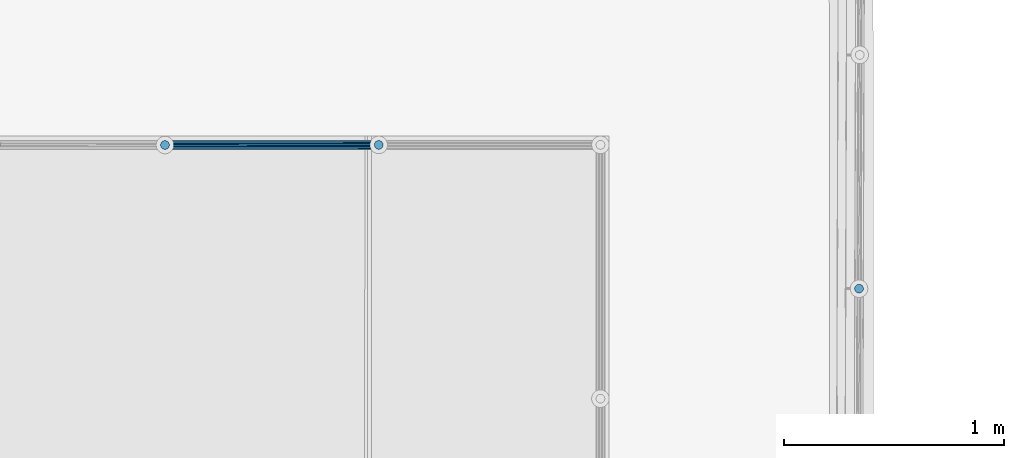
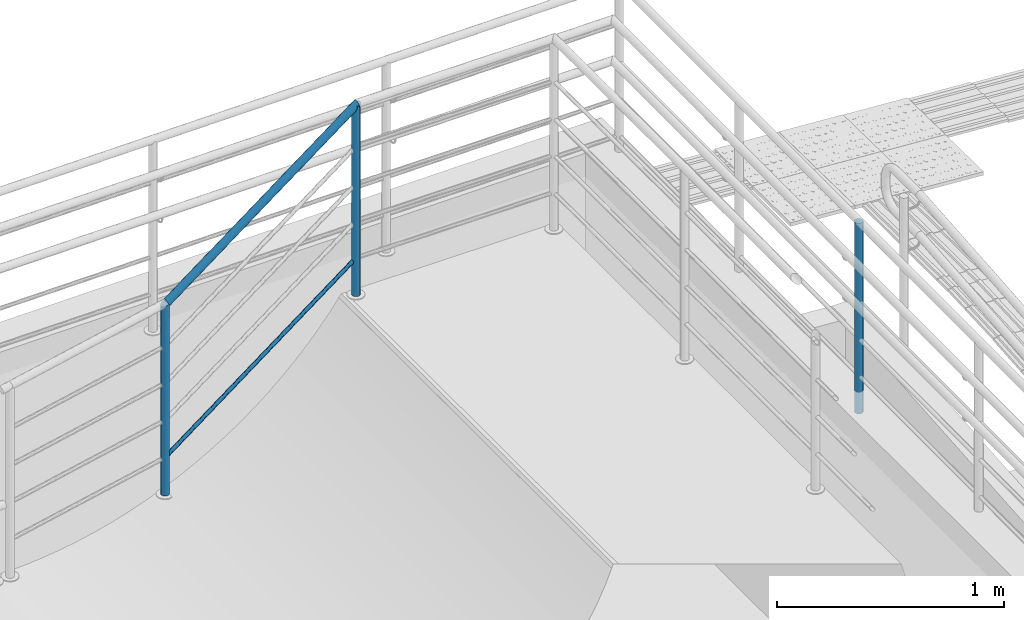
# One storey, part 52 of 237: 5 building element parts, 2 elements without a shape of their own.
"""IFC2X3 building model written with IfcOpenShell, lengths in millimetres."""

import ifcopenshell
import ifcopenshell.guid

model = None  # the IFC model being written
_history = None  # IfcOwnerHistory: only IFC2X3 demands one
_inside = {}  # id of a spatial element -> (the spatial element, [elements in it])
_under = {}  # id of a project, library or spatial element -> (it, [spatial elements below it])
_declared = {}  # id of a project -> (the project, [libraries it declares])
_typed = {}  # id of a type object -> (the type object, [elements of that type])
_made_of = {}  # id of a material, layer set ... -> (it, [elements and type objects made of it])


def new_model(schema):
    """Start an empty IFC model of exactly this schema.

    Asked for "IFC4X3", IfcOpenShell would pick the latest addendum, in which some entities
    have other attributes; the version numbers below select the first issue.
    IFC2X3 requires an IfcOwnerHistory on every rooted entity: one is made here for all.
    """
    global model, _history
    if schema == "IFC4X3":
        model = ifcopenshell.file(schema_version=(4, 3, 0, 0))
    else:
        model = ifcopenshell.file(schema=schema)
    _inside.clear()
    _under.clear()
    _declared.clear()
    _typed.clear()
    _made_of.clear()
    _history = None
    if model.schema == "IFC2X3":
        org = make("IfcOrganization", Name="unknown")
        user = make(
            "IfcPersonAndOrganization",
            ThePerson=make("IfcPerson", FamilyName="unknown"),
            TheOrganization=org,
        )
        app = make(
            "IfcApplication",
            ApplicationDeveloper=org,
            Version="unknown",
            ApplicationFullName="unknown",
            ApplicationIdentifier="unknown",
        )
        _history = make(
            "IfcOwnerHistory",
            OwningUser=user,
            OwningApplication=app,
            ChangeAction="ADDED",
            CreationDate=0,
        )
    return model


def make(cls, **values):
    """One entity of the class cls with the attributes given. An attribute that is None is left unset."""
    return model.create_entity(
        cls, **{name: value for name, value in values.items() if value is not None}
    )


def entity(cls, *values):
    """Any entity or typed value of the class cls, its attributes in the order of the schema. None: left unset."""
    e = model.create_entity(cls)
    for i, value in enumerate(values):
        if value is not None:
            e[i] = value
    return e


def rooted(cls, **values):
    """An entity with a GlobalId (a new one), such as an element, a storey or a relation."""
    return make(cls, GlobalId=ifcopenshell.guid.new(), OwnerHistory=_history, **values)


def si_unit(unit_type, name, prefix=None):
    """IfcSIUnit, for example si_unit("LENGTHUNIT", "METRE", prefix="MILLI")."""
    return make("IfcSIUnit", UnitType=unit_type, Prefix=prefix, Name=name)


def converted_unit(unit_type, name, factor, base, dimensions=None, offset=None):
    """IfcConversionBasedUnit, such as the inch: factor (a typed value) times the base unit."""
    return make(
        "IfcConversionBasedUnit"
        if offset is None
        else "IfcConversionBasedUnitWithOffset",
        ConversionOffset=offset,
        Dimensions=None
        if dimensions is None
        else entity("IfcDimensionalExponents", *dimensions),
        UnitType=unit_type,
        Name=name,
        ConversionFactor=make(
            "IfcMeasureWithUnit", ValueComponent=factor, UnitComponent=base
        ),
    )


def derived_unit(unit_type, elements):
    """IfcDerivedUnit: a product of units, each with its exponent."""
    return make(
        "IfcDerivedUnit",
        Elements=[
            make("IfcDerivedUnitElement", Unit=unit, Exponent=power)
            for unit, power in elements
        ],
        UnitType=unit_type,
    )


def money_unit(currency):
    """IfcMonetaryUnit."""
    return make("IfcMonetaryUnit", Currency=currency)


def assignment(units):
    """IfcUnitAssignment: the units of a project."""
    return None if units is None else make("IfcUnitAssignment", Units=units)


def point(xyz):
    """IfcCartesianPoint."""
    return None if xyz is None else make("IfcCartesianPoint", Coordinates=xyz)


def direction(xyz):
    """IfcDirection."""
    return None if xyz is None else make("IfcDirection", DirectionRatios=xyz)


def frame(location, z_axis=None, x_axis=None):
    """IfcAxis2Placement3D, a coordinate frame: its origin and axes. An axis left out is left unset."""
    return make(
        "IfcAxis2Placement3D",
        Location=point(location),
        Axis=direction(z_axis),
        RefDirection=direction(x_axis),
    )


def origin_with_axes():
    """The frame at (0, 0, 0) with the z axis (0, 0, 1) and the x axis (1, 0, 0) written out."""
    return frame((0.0, 0.0, 0.0), z_axis=(0.0, 0.0, 1.0), x_axis=(1.0, 0.0, 0.0))


def place(relative_to, where):
    """IfcLocalPlacement: puts the frame where relative to a parent placement (None: the world)."""
    return make(
        "IfcLocalPlacement", PlacementRelTo=relative_to, RelativePlacement=where
    )


def context(
    kind, dimensions, precision=None, world=None, true_north=None, identifier=None
):
    """IfcGeometricRepresentationContext, for example the 3D "Model" context."""
    return make(
        "IfcGeometricRepresentationContext",
        ContextIdentifier=identifier,
        ContextType=kind,
        CoordinateSpaceDimension=dimensions,
        Precision=precision,
        WorldCoordinateSystem=world,
        TrueNorth=true_north,
    )


def subcontext(parent, identifier, kind, view, scale=None):
    """IfcGeometricRepresentationSubContext, for example "Body" below "Model"."""
    return make(
        "IfcGeometricRepresentationSubContext",
        ContextIdentifier=identifier,
        ContextType=kind,
        ParentContext=parent,
        TargetScale=scale,
        TargetView=view,
    )


def project(units=None, contexts=None):
    """IfcProject with its units and contexts."""
    return rooted(
        "IfcProject",
        Name="project",
        RepresentationContexts=contexts,
        UnitsInContext=assignment(units),
    )


def spatial(cls, under=None, at=None, **own):
    """A site, building, storey or space (cls), placed at a placement, below another one or the project."""
    s = rooted(cls, ObjectPlacement=at, **own)
    if under is not None:
        _under.setdefault(under.id(), (under, []))[1].append(s)
    return s


def faces_of(points, faces, orient=None, outer=None):
    """IfcFace entities. A face is a list of loops; a loop is a list of indices into points, from 0.

    orient and outer hold one flag for each loop. By default every Orientation is true, the
    first loop of a face is its IfcFaceOuterBound and the others are IfcFaceBound.
    """
    made = []
    for i, loops in enumerate(faces):
        bounds = []
        for j, loop in enumerate(loops):
            is_outer = j == 0 if outer is None else outer[i][j]
            bounds.append(
                make(
                    "IfcFaceOuterBound" if is_outer else "IfcFaceBound",
                    Bound=make("IfcPolyLoop", Polygon=[points[k] for k in loop]),
                    Orientation=True if orient is None else orient[i][j],
                )
            )
        made.append(make("IfcFace", Bounds=bounds))
    return made


def faceted_brep(points, faces, orient=None, outer=None, voids=None):
    """IfcFacetedBrep: a solid bounded by flat faces; with voids (closed shells), ...WithVoids."""
    shared = [point(p) for p in points]
    hull = make("IfcClosedShell", CfsFaces=faces_of(shared, faces, orient, outer))
    if voids is None:
        return make("IfcFacetedBrep", Outer=hull)
    return make(
        "IfcFacetedBrepWithVoids",
        Outer=hull,
        Voids=[
            make(cls, CfsFaces=faces_of(shared, fs, o, b)) for cls, fs, o, b in voids
        ],
    )


def shape(context_of_items, identifier, shape_type, items):
    """IfcShapeRepresentation: the items that make up one representation, for example the "Body"."""
    return make(
        "IfcShapeRepresentation",
        ContextOfItems=context_of_items,
        RepresentationIdentifier=identifier,
        RepresentationType=shape_type,
        Items=items,
    )


def material(Name=None, Category=None):
    """IfcMaterial."""
    return make("IfcMaterial", Name=Name, Category=Category)


def made_of(thing, what):
    """Note that an element or type object is made of a material, layer set ...; save() writes the relation."""
    if what is not None:
        _made_of.setdefault(what.id(), (what, []))[1].append(thing)
    return thing


def type_object(cls, material=None, **own):
    """A type object (cls), such as IfcWallType, which elements share."""
    return made_of(rooted(cls, **own), material)


def element(
    cls,
    number,
    at=None,
    inside=None,
    cuts=None,
    type_object=None,
    material=None,
    context=None,
    identifier="Body",
    shape_type=None,
    held_by="IfcProductDefinitionShape",
    body=None,
    shapes=None,
    **own,
):
    """One element of the class cls, such as IfcWall. Its Tag is "e" and its number.

    at: its placement. inside: the storey or other place that contains it. cuts: it is an
    opening in that element (IfcRelVoidsElement). A single representation is given by context,
    identifier, shape_type and body (its items); several are given by shapes. held_by: the class
    of the entity that holds the representations. save() writes the other relations.
    """
    e = rooted(cls, Tag="e%d" % number, ObjectPlacement=at, **own)
    if body is not None:
        shapes = [shape(context, identifier, shape_type, body)]
    if shapes is not None:
        e.Representation = make(held_by, Representations=shapes)
    if inside is not None:
        _inside.setdefault(inside.id(), (inside, []))[1].append(e)
    if cuts is not None:
        rooted(
            "IfcRelVoidsElement", RelatingBuildingElement=cuts, RelatedOpeningElement=e
        )
    if type_object is not None:
        _typed.setdefault(type_object.id(), (type_object, []))[1].append(e)
    return made_of(e, material)


def aggregate(whole, parts):
    """IfcRelAggregates: a whole, such as a stair, and the parts it consists of."""
    return rooted("IfcRelAggregates", RelatingObject=whole, RelatedObjects=parts)


def save(model, path):
    """Write the relations noted so far, then the file.

    IfcRelAggregates (storeys below a building ...), IfcRelContainedInSpatialStructure (elements
    in a storey), IfcRelDefinesByType, IfcRelAssociatesMaterial and IfcRelDeclares: one each for
    every whole, place, type object, material and project.
    """
    for whole, parts in _under.values():
        aggregate(whole, parts)
    for where, things in _inside.values():
        rooted(
            "IfcRelContainedInSpatialStructure",
            RelatedElements=things,
            RelatingStructure=where,
        )
    for kind, things in _typed.values():
        rooted("IfcRelDefinesByType", RelatedObjects=things, RelatingType=kind)
    for what, things in _made_of.values():
        rooted("IfcRelAssociatesMaterial", RelatedObjects=things, RelatingMaterial=what)
    for by, libraries in _declared.values():
        rooted("IfcRelDeclares", RelatingContext=by, RelatedDefinitions=libraries)
    model.write(path)


model = new_model("IFC2X3")

# Units and contexts
model_context = context("Model", 3, precision=0.01, world=origin_with_axes(), true_north=direction((0.0, 1.0)))
body_context = subcontext(model_context, "Body", "Model", "MODEL_VIEW")
ifc_project = project(units=[si_unit("LENGTHUNIT", "METRE", prefix="MILLI"), si_unit("AREAUNIT", "SQUARE_METRE"), si_unit("VOLUMEUNIT", "CUBIC_METRE"), converted_unit("PLANEANGLEUNIT", "DEGREE", entity("IfcPlaneAngleMeasure", 0.0174532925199), si_unit("PLANEANGLEUNIT", "RADIAN"), dimensions=[0, 0, 0, 0, 0, 0, 0]), money_unit("USD"), converted_unit("TIMEUNIT", "Year", entity("IfcTimeMeasure", 31556926.0), si_unit("TIMEUNIT", "SECOND"), dimensions=[0, 0, 1, 0, 0, 0, 0]), si_unit("MASSUNIT", "GRAM", prefix="KILO"), si_unit("THERMODYNAMICTEMPERATUREUNIT", "DEGREE_CELSIUS"), si_unit("LUMINOUSINTENSITYUNIT", "LUMEN"), si_unit("ENERGYUNIT", "JOULE", prefix="MEGA"), derived_unit("THERMALCONDUCTANCEUNIT", [(si_unit("POWERUNIT", "WATT"), 1), (si_unit("LENGTHUNIT", "METRE"), -1), (si_unit("THERMODYNAMICTEMPERATUREUNIT", "KELVIN"), -1)]), derived_unit("SPECIFICHEATCAPACITYUNIT", [(si_unit("ENERGYUNIT", "JOULE"), 1), (si_unit("MASSUNIT", "GRAM", prefix="KILO"), -1), (si_unit("THERMODYNAMICTEMPERATUREUNIT", "KELVIN"), -1)]), derived_unit("MASSDENSITYUNIT", [(si_unit("MASSUNIT", "GRAM", prefix="KILO"), 1), (si_unit("VOLUMEUNIT", "CUBIC_METRE"), -1)])], contexts=[model_context])

# Site, building, storey
site_placement = place(None, origin_with_axes())
site = spatial("IfcSite", under=ifc_project, at=site_placement, Name="Local", CompositionType="ELEMENT")
building_placement = place(site_placement, origin_with_axes())
building = spatial("IfcBuilding", under=site, at=building_placement, Name="Construção", CompositionType="ELEMENT")
storey_placement = place(building_placement, origin_with_axes())
storey = spatial("IfcBuildingStorey", under=building, at=storey_placement, Name="Pavimento Térreo", CompositionType="ELEMENT", Elevation=0.0)

# Railing, building element part
railing_type = type_object("IfcRailingType", Name="Tipo de Guarda-Corpo", PredefinedType="NOTDEFINED")
railing_1_placement = place(storey_placement, frame((70326.6870103, 28675.2458388, -1357.10819655), z_axis=(0.0, 0.0, 1.0), x_axis=(1.0, 0.0, 0.0)))
railing_1 = element("IfcRailing", 1, at=railing_1_placement, inside=storey, type_object=railing_type, Name="Guarda-Corpo - 004", PredefinedType="NOTDEFINED")
ifc_material = material(Name="Aço - Inoxidável")
building_element_part_1_placement = place(railing_1_placement, origin_with_axes())
building_element_part_1 = element("IfcBuildingElementPart", 2, at=building_element_part_1_placement, material=ifc_material, Name="Aço - Inoxidável", context=body_context, shape_type="Brep", body=[
    faceted_brep([(-4708.5587501, 4522.29877386, 5.0), (-4708.24450779, 4525.77081208, 5.0), (-4708.24450779, 4525.77081208, 1030.0), (-4708.5587501, 4522.29877386, 1030.0), (-4708.53795264, 4529.24466983, 5.0), (-4709.47113147, 4518.93405131, 5.0), (-4710.95392966, 4515.77887982, 5.0), (-4712.96209059, 4512.92912768, 5.0), (-4715.43459731, 4510.47138316, 5.0), (-4718.29632395, 4508.48032359, 5.0), (-4721.4603184, 4507.01644631, 5.0), (-4724.83044429, 4506.12423048, 5.0), (-4728.30430205, 4505.83078563, 5.0), (-4731.77634026, 4506.14502794, 5.0), (-4735.14106281, 4507.05740931, 5.0), (-4738.2962343, 4508.5402075, 5.0), (-4741.14598644, 4510.54836843, 5.0), (-4743.60373096, 4513.02087514, 5.0), (-4745.59479053, 4515.88260179, 5.0), (-4747.05866781, 4519.04659624, 5.0), (-4747.95088364, 4522.41672213, 5.0), (-4748.24432849, 4525.89057988, 5.0), (-4747.93008618, 4529.3626181, 5.0), (-4747.01770481, 4532.72734064, 5.0), (-4745.53490663, 4535.88251213, 5.0), (-4743.5267457, 4538.73226428, 5.0), (-4741.05423898, 4541.1900088, 5.0), (-4738.19251234, 4543.18106837, 5.0), (-4735.02851788, 4544.64494565, 5.0), (-4731.658392, 4545.53716148, 5.0), (-4728.18453424, 4545.83060633, 5.0), (-4724.71249603, 4545.51636402, 5.0), (-4721.34777348, 4544.60398265, 5.0), (-4718.19260199, 4543.12118446, 5.0), (-4715.34284985, 4541.11302353, 5.0), (-4712.88510533, 4538.64051681, 5.0), (-4710.89404576, 4535.77879017, 5.0), (-4709.43016847, 4532.61479572, 5.0), (-4708.53795264, 4529.24466983, 1030.0), (-4731.77634026, 4506.14502794, 1030.0), (-4728.30430205, 4505.83078563, 1030.0), (-4724.83044429, 4506.12423048, 1030.0), (-4721.4603184, 4507.01644631, 1030.0), (-4718.29632395, 4508.48032359, 1030.0), (-4715.43459731, 4510.47138316, 1030.0), (-4712.96209059, 4512.92912768, 1030.0), (-4710.95392966, 4515.77887982, 1030.0), (-4709.47113147, 4518.93405131, 1030.0), (-4709.43016847, 4532.61479572, 1030.0), (-4710.89404576, 4535.77879017, 1030.0), (-4712.88510533, 4538.64051681, 1030.0), (-4715.34284985, 4541.11302353, 1030.0), (-4718.19260199, 4543.12118446, 1030.0), (-4721.34777348, 4544.60398265, 1030.0), (-4724.71249603, 4545.51636402, 1030.0), (-4728.18453424, 4545.83060633, 1030.0), (-4731.658392, 4545.53716148, 1030.0), (-4735.02851788, 4544.64494565, 1030.0), (-4738.19251234, 4543.18106837, 1030.0), (-4741.05423898, 4541.1900088, 1030.0), (-4743.5267457, 4538.73226428, 1030.0), (-4745.53490663, 4535.88251213, 1030.0), (-4747.01770481, 4532.72734064, 1030.0), (-4747.93008618, 4529.3626181, 1030.0), (-4748.24432849, 4525.89057988, 1030.0), (-4747.95088364, 4522.41672213, 1030.0), (-4747.05866781, 4519.04659624, 1030.0), (-4745.59479053, 4515.88260179, 1030.0), (-4743.60373096, 4513.02087514, 1030.0), (-4741.14598644, 4510.54836843, 1030.0), (-4738.2962343, 4508.5402075, 1030.0), (-4735.14106281, 4507.05740931, 1030.0)], [[[0, 1, 2, 3]], [[4, 1, 0, 5, 6, 7, 8, 9, 10, 11, 12, 13, 14, 15, 16, 17, 18, 19, 20, 21, 22, 23, 24, 25, 26, 27, 28, 29, 30, 31, 32, 33, 34, 35, 36, 37]], [[1, 4, 38, 2]], [[39, 40, 41, 42, 43, 44, 45, 46, 47, 3, 2, 38, 48, 49, 50, 51, 52, 53, 54, 55, 56, 57, 58, 59, 60, 61, 62, 63, 64, 65, 66, 67, 68, 69, 70, 71]], [[5, 0, 3, 47]], [[6, 5, 47, 46]], [[7, 6, 46, 45]], [[8, 7, 45, 44]], [[9, 8, 44, 43]], [[10, 9, 43, 42]], [[11, 10, 42, 41]], [[12, 11, 41, 40]], [[13, 12, 40, 39]], [[14, 13, 39, 71]], [[15, 14, 71, 70]], [[16, 15, 70, 69]], [[17, 16, 69, 68]], [[18, 17, 68, 67]], [[19, 18, 67, 66]], [[20, 19, 66, 65]], [[21, 20, 65, 64]], [[22, 21, 64, 63]], [[23, 22, 63, 62]], [[24, 23, 62, 61]], [[25, 24, 61, 60]], [[26, 25, 60, 59]], [[27, 26, 59, 58]], [[28, 27, 58, 57]], [[29, 28, 57, 56]], [[30, 29, 56, 55]], [[31, 30, 55, 54]], [[32, 31, 54, 53]], [[33, 32, 53, 52]], [[34, 33, 52, 51]], [[35, 34, 51, 50]], [[36, 35, 50, 49]], [[37, 36, 49, 48]], [[4, 37, 48, 38]]]),
])
aggregate(railing_1, [building_element_part_1])

# Railing, building element parts
railing_2_placement = place(storey_placement, frame((61612.4440926, 28006.4497128, -1265.99547451), z_axis=(0.0, 0.0, 1.0), x_axis=(-1.0, 0.0, 0.0)))
railing_2 = element("IfcRailing", 3, at=railing_2_placement, inside=storey, type_object=railing_type, Name="Guarda-Corpo - 001", PredefinedType="NOTDEFINED")
building_element_part_2_placement = place(railing_2_placement, origin_with_axes())
building_element_part_2 = element("IfcBuildingElementPart", 4, at=building_element_part_2_placement, material=ifc_material, Name="Aço - Inoxidável", context=body_context, shape_type="Brep", body=[
    faceted_brep([(-1805.35094444, -5867.99620846, 913.640042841), (-1801.87792665, -5868.29943341, 913.640042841), (-1801.87725205, -5868.29943328, 1938.64206737), (-1805.35028009, -5867.99620833, 1939.8049115), (-1798.40501744, -5867.99496849, 913.640042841), (-1808.71854493, -5867.09450698, 913.640042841), (-1811.87840527, -5865.6217267, 913.640042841), (-1814.72069473, -5863.63229028, 913.640042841), (-1814.73451472, -5863.62261733, 913.640042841), (-1817.18817243, -5861.1698355, 913.640042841), (-1817.20009183, -5861.15792077, 913.640042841), (-1819.19055958, -5858.31631802, 913.640042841), (-1819.20022128, -5858.30252559, 913.640042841), (-1820.66701481, -5855.15844221, 913.640042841), (-1820.67413016, -5855.14319152, 913.640042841), (-1821.57267753, -5851.79216008, 913.640042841), (-1821.57703449, -5851.77591334, 913.640042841), (-1821.88003083, -5848.3197556, 913.640042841), (-1821.88149998, -5848.30300408, 913.640042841), (-1821.57973748, -5844.84673675, 913.640042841), (-1821.57827559, -5844.82998634, 913.640042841), (-1820.68092346, -5841.47862958, 913.640042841), (-1820.67657466, -5841.46238601, 913.640042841), (-1819.2109004, -5838.3177719, 913.640042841), (-1819.20379491, -5838.30252591, 913.640042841), (-1817.21433562, -5835.46020378, 913.640042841), (-1817.204686, -5835.44641679, 913.640042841), (-1814.75189471, -5832.99274961, 913.640042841), (-1814.73998985, -5832.98084009, 913.640042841), (-1811.89839814, -5830.99038008, 913.640042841), (-1811.884595, -5830.98071111, 913.640042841), (-1808.72526118, -5829.50680275, 913.640042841), (-1805.35798314, -5828.60389897, 913.640042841), (-1801.88507394, -5828.29943405, 913.640042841), (-1798.41205616, -5828.60265899, 913.640042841), (-1795.04445567, -5829.50436048, 913.640042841), (-1791.88459533, -5830.97714075, 913.640042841), (-1789.04239607, -5832.96651405, 913.640042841), (-1789.02848589, -5832.97625013, 913.640042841), (-1786.57492826, -5835.42893191, 913.640042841), (-1786.56290878, -5835.44094669, 913.640042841), (-1784.57253778, -5838.28241132, 913.640042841), (-1784.56277933, -5838.29634187, 913.640042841), (-1783.09606638, -5841.4402525, 913.640042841), (-1783.08887044, -5841.45567593, 913.640042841), (-1782.19037664, -5844.80650761, 913.640042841), (-1782.18596611, -5844.82295411, 913.640042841), (-1781.8829887, -5848.27889594, 913.640042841), (-1781.88150061, -5848.29586337, 913.640042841), (-1782.18324396, -5851.75191147, 913.640042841), (-1782.18472499, -5851.76888111, 913.640042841), (-1783.08202107, -5855.12002853, 913.640042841), (-1783.08642591, -5855.13648145, 913.640042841), (-1784.55201282, -5858.28090814, 913.640042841), (-1784.55920566, -5858.29634155, 913.640042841), (-1786.54855568, -5861.13850756, 913.640042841), (-1786.55831457, -5861.15245066, 913.640042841), (-1789.01098671, -5863.60599865, 913.640042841), (-1789.02301072, -5863.61802736, 913.640042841), (-1791.86448661, -5865.60840625, 913.640042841), (-1791.87840557, -5865.61815635, 913.640042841), (-1795.0377394, -5867.09206471, 913.640042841), (-1798.40435309, -5867.99496836, 1937.47916173), (-1821.57839274, -5844.82998637, 1945.23468248), (-1821.88149998, -5848.30300408, 1945.33677241), (-1821.57691734, -5851.77591332, 1945.2353856), (-1820.67389942, -5855.14319148, 1944.93360263), (-1819.19988397, -5858.30252552, 1944.44059304), (-1817.19965819, -5861.15792068, 1943.77133666), (-1814.73399794, -5863.62261722, 1942.94616852), (-1811.87782105, -5865.62172659, 1941.99016092), (-1808.71791101, -5867.09450685, 1940.93236169), (-1795.03710549, -5867.09206458, 1936.35152887), (-1791.87782136, -5865.61815623, 1935.29343135), (-1789.02249396, -5863.61802726, 1934.33701893), (-1786.55788096, -5861.15245058, 1933.51135171), (-1784.55886837, -5858.29634148, 1932.84151718), (-1783.08619519, -5855.1364814, 1932.34786791), (-1782.18460785, -5851.76888109, 1932.0454032), (-1781.88150061, -5848.29586337, 1931.94331327), (-1782.18608325, -5844.82295414, 1932.04470009), (-1783.08910116, -5841.45567598, 1932.34648305), (-1784.56311662, -5838.29634193, 1932.83949265), (-1786.56334239, -5835.44094677, 1933.50874902), (-1789.02900265, -5832.97625023, 1934.33391717), (-1791.88517954, -5830.97714086, 1935.28992476), (-1795.04508958, -5829.5043606, 1936.347724), (-1798.4127205, -5828.60265912, 1937.47517418), (-1801.88574854, -5828.29943418, 1938.63801831), (-1805.3586475, -5828.6038991, 1939.80092395), (-1808.7258951, -5829.50680287, 1940.92855681), (-1811.88517922, -5830.98071122, 1941.98665433), (-1814.74050663, -5832.98084019, 1942.94306675), (-1817.20511963, -5835.44641688, 1943.76873397), (-1819.20413222, -5838.30252597, 1944.4385685), (-1820.6768054, -5841.46238605, 1944.93221777)], [[[0, 1, 2, 3]], [[4, 1, 0, 5, 6, 7, 8, 9, 10, 11, 12, 13, 14, 15, 16, 17, 18, 19, 20, 21, 22, 23, 24, 25, 26, 27, 28, 29, 30, 31, 32, 33, 34, 35, 36, 37, 38, 39, 40, 41, 42, 43, 44, 45, 46, 47, 48, 49, 50, 51, 52, 53, 54, 55, 56, 57, 58, 59, 60, 61]], [[1, 4, 62, 2]], [[63, 64, 65, 66, 67, 68, 69, 70, 71, 3, 2, 62, 72, 73, 74, 75, 76, 77, 78, 79, 80, 81, 82, 83, 84, 85, 86, 87, 88, 89, 90, 91, 92, 93, 94, 95]], [[5, 0, 3, 71]], [[6, 5, 71, 70]], [[7, 6, 70]], [[8, 7, 70, 69]], [[9, 8, 69]], [[10, 9, 69, 68]], [[11, 10, 68]], [[12, 11, 68, 67]], [[13, 12, 67]], [[14, 13, 67, 66]], [[15, 14, 66]], [[16, 15, 66, 65]], [[17, 16, 65]], [[18, 17, 65, 64]], [[19, 18, 64]], [[20, 19, 64, 63]], [[21, 20, 63]], [[22, 21, 63, 95]], [[23, 22, 95]], [[24, 23, 95, 94]], [[25, 24, 94]], [[26, 25, 94, 93]], [[27, 26, 93]], [[28, 27, 93, 92]], [[29, 28, 92]], [[30, 29, 92, 91]], [[31, 30, 91, 90]], [[32, 31, 90, 89]], [[33, 32, 89, 88]], [[34, 33, 88, 87]], [[35, 34, 87, 86]], [[36, 35, 86, 85]], [[37, 36, 85]], [[38, 37, 85, 84]], [[39, 38, 84]], [[40, 39, 84, 83]], [[41, 40, 83]], [[42, 41, 83, 82]], [[43, 42, 82]], [[44, 43, 82, 81]], [[45, 44, 81]], [[46, 45, 81, 80]], [[47, 46, 80]], [[48, 47, 80, 79]], [[49, 48, 79]], [[50, 49, 79, 78]], [[51, 50, 78]], [[52, 51, 78, 77]], [[53, 52, 77]], [[54, 53, 77, 76]], [[55, 54, 76]], [[56, 55, 76, 75]], [[57, 56, 75]], [[58, 57, 75, 74]], [[59, 58, 74]], [[60, 59, 74, 73]], [[61, 60, 73, 72]], [[4, 61, 72, 62]]]),
])
building_element_part_3_placement = place(railing_2_placement, origin_with_axes())
building_element_part_3 = element("IfcBuildingElementPart", 5, at=building_element_part_3_placement, material=ifc_material, Name="Aço - Inoxidável", context=body_context, shape_type="Brep", body=[
    faceted_brep([(-833.133361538, -5867.49694747, 180.123116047), (-829.660242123, -5867.79900474, 180.123116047), (-829.661179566, -5867.7990052, 1205.1210463), (-833.134284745, -5867.49694793, 1206.70174927), (-826.187435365, -5867.4933722, 180.123116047), (-836.501264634, -5866.59637827, 180.123116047), (-839.646324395, -5865.1317832, 180.123116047), (-839.66161938, -5865.12466046, 180.123116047), (-842.504593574, -5863.13616854, 180.123116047), (-842.518399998, -5863.12651145, 180.123116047), (-844.972899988, -5860.67453696, 180.123116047), (-844.984804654, -5860.66264398, 180.123116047), (-846.976244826, -5857.82168614, 180.123116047), (-846.98589289, -5857.80792143, 180.123116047), (-848.453757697, -5854.6643008, 180.123116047), (-848.460862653, -5854.64908309, 180.123116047), (-849.360546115, -5851.29831859, 180.123116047), (-849.364897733, -5851.28210866, 180.123116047), (-849.669059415, -5847.8260148, 180.123116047), (-849.67052948, -5847.80930196, 180.123116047), (-849.369925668, -5844.35289458, 180.123116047), (-849.368471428, -5844.33618247, 180.123116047), (-848.472236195, -5840.98448714, 180.123116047), (-848.467901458, -5840.96827916, 180.123116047), (-847.003269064, -5837.82313924, 180.123116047), (-846.996182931, -5837.80792408, 180.123116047), (-845.00765999, -5834.96490552, 180.123116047), (-844.99803327, -5834.951143, 180.123116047), (-842.546045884, -5832.49663009, 180.123116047), (-842.534165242, -5832.48473778, 180.123116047), (-839.693222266, -5830.49330803, 180.123116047), (-839.679442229, -5830.48364889, 180.123116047), (-836.535870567, -5829.01580695, 180.123116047), (-836.520603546, -5829.00867841, 180.123116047), (-833.153628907, -5828.10464257, 180.123116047), (-829.680822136, -5827.79901003, 180.123116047), (-826.207702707, -5828.1010673, 180.123116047), (-822.839799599, -5829.0016365, 180.123116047), (-819.694832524, -5830.4661884, 180.123116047), (-819.679444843, -5830.47335431, 180.123116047), (-816.836593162, -5832.46176054, 180.123116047), (-816.822664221, -5832.47150332, 180.123116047), (-814.368300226, -5834.92334195, 180.123116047), (-814.356259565, -5834.93537079, 180.123116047), (-812.364950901, -5837.77614103, 180.123116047), (-812.355171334, -5837.79009334, 180.123116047), (-810.887416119, -5840.93347927, 180.123116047), (-810.88020158, -5840.94893168, 180.123116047), (-809.980591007, -5844.29942471, 180.123116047), (-809.976166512, -5844.31590611, 180.123116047), (-809.672030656, -5847.77170651, 180.123116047), (-809.670534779, -5847.78871281, 180.123116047), (-809.971112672, -5851.24482216, 180.123116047), (-809.972592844, -5851.2618323, 180.123116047), (-810.868751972, -5854.61324301, 180.123116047), (-810.873162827, -5854.62973561, 180.123116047), (-812.337676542, -5857.77462068, 180.123116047), (-812.344881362, -5857.79009069, 180.123116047), (-814.3332558, -5860.63289693, 180.123116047), (-814.343031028, -5860.64687177, 180.123116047), (-816.794856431, -5863.10122253, 180.123116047), (-816.806899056, -5863.11327699, 180.123116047), (-819.64768454, -5865.10459634, 180.123116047), (-819.661622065, -5865.11436588, 180.123116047), (-822.805058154, -5866.58214452, 180.123116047), (-822.820460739, -5866.58933636, 180.123116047), (-826.188358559, -5867.49337266, 1203.54040622), (-849.368308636, -5844.33618239, 1214.08790914), (-849.67052948, -5847.80930196, 1214.22584057), (-849.365060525, -5851.28210874, 1214.08719032), (-848.46118329, -5854.64908324, 1213.67617122), (-846.986361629, -5857.80792166, 1213.00527186), (-844.98540725, -5860.66264428, 1212.09487718), (-842.51911814, -5863.1265118, 1210.97264907), (-839.662431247, -5865.12466086, 1209.67268586), (-836.502145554, -5866.5963787, 1208.23448627), (-822.821341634, -5866.58933679, 1202.00785598), (-819.662433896, -5865.11436628, 1200.56996133), (-816.807617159, -5863.11327734, 1199.27041199), (-814.343633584, -5860.64687207, 1198.1486941), (-812.345350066, -5857.79009092, 1197.23889049), (-810.873483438, -5854.62973576, 1196.56864509), (-809.972755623, -5851.26183238, 1196.15832295), (-809.670534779, -5847.78871281, 1196.02039152), (-809.976003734, -5844.31590603, 1196.15904177), (-810.879880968, -5840.94893153, 1196.57006088), (-812.35470263, -5837.79009311, 1197.24096024), (-814.355657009, -5834.93537049, 1198.15135491), (-816.821946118, -5832.47150297, 1199.27358302), (-819.678633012, -5830.47335391, 1200.57354624), (-822.838918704, -5829.00163607, 1202.01174582), (-826.206779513, -5828.10106684, 1203.54448282), (-829.679884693, -5827.79900957, 1205.12518579), (-833.1527057, -5828.10464211, 1206.70582587), (-836.519722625, -5829.00867798, 1208.23837612), (-839.678630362, -5830.48364849, 1209.67627076), (-842.533447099, -5832.48473743, 1210.9758201), (-844.997430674, -5834.9511427, 1212.09753799), (-846.995714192, -5837.80792385, 1213.0073416), (-848.46758082, -5840.96827901, 1213.67758701)], [[[0, 1, 2, 3]], [[4, 1, 0, 5, 6, 7, 8, 9, 10, 11, 12, 13, 14, 15, 16, 17, 18, 19, 20, 21, 22, 23, 24, 25, 26, 27, 28, 29, 30, 31, 32, 33, 34, 35, 36, 37, 38, 39, 40, 41, 42, 43, 44, 45, 46, 47, 48, 49, 50, 51, 52, 53, 54, 55, 56, 57, 58, 59, 60, 61, 62, 63, 64, 65]], [[1, 4, 66, 2]], [[67, 68, 69, 70, 71, 72, 73, 74, 75, 3, 2, 66, 76, 77, 78, 79, 80, 81, 82, 83, 84, 85, 86, 87, 88, 89, 90, 91, 92, 93, 94, 95, 96, 97, 98, 99]], [[5, 0, 3, 75]], [[6, 5, 75]], [[7, 6, 75, 74]], [[8, 7, 74]], [[9, 8, 74, 73]], [[10, 9, 73]], [[11, 10, 73, 72]], [[12, 11, 72]], [[13, 12, 72, 71]], [[14, 13, 71]], [[15, 14, 71, 70]], [[16, 15, 70]], [[17, 16, 70, 69]], [[18, 17, 69]], [[19, 18, 69, 68]], [[20, 19, 68]], [[21, 20, 68, 67]], [[22, 21, 67]], [[23, 22, 67, 99]], [[24, 23, 99]], [[25, 24, 99, 98]], [[26, 25, 98]], [[27, 26, 98, 97]], [[28, 27, 97]], [[29, 28, 97, 96]], [[30, 29, 96]], [[31, 30, 96, 95]], [[32, 31, 95]], [[33, 32, 95, 94]], [[34, 33, 94, 93]], [[35, 34, 93, 92]], [[36, 35, 92, 91]], [[37, 36, 91, 90]], [[38, 37, 90]], [[39, 38, 90, 89]], [[40, 39, 89]], [[41, 40, 89, 88]], [[42, 41, 88]], [[43, 42, 88, 87]], [[44, 43, 87]], [[45, 44, 87, 86]], [[46, 45, 86]], [[47, 46, 86, 85]], [[48, 47, 85]], [[49, 48, 85, 84]], [[50, 49, 84]], [[51, 50, 84, 83]], [[52, 51, 83]], [[53, 52, 83, 82]], [[54, 53, 82]], [[55, 54, 82, 81]], [[56, 55, 81]], [[57, 56, 81, 80]], [[58, 57, 80]], [[59, 58, 80, 79]], [[60, 59, 79]], [[61, 60, 79, 78]], [[62, 61, 78]], [[63, 62, 78, 77]], [[64, 63, 77]], [[65, 64, 77, 76]], [[4, 65, 76, 66]]]),
])
building_element_part_4_placement = place(railing_2_placement, origin_with_axes())
building_element_part_4 = element("IfcBuildingElementPart", 6, at=building_element_part_4_placement, material=ifc_material, Name="Aço - Inoxidável", context=body_context, shape_type="Brep", body=[
    faceted_brep([(-1808.59150971, -5828.30163194, 1938.39280775), (-1807.42853521, -5828.6050957, 1941.8657713), (-836.682977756, -5828.10230941, 1209.70205387), (-1809.75428502, -5828.60585803, 1934.9198442), (-1810.88153081, -5829.50853021, 1931.55240489), (-1811.93899627, -5830.98222126, 1928.39280776), (-1812.89455087, -5832.98215381, 1925.53705557), (-1813.71916055, -5835.44756093, 1923.0719189), (-1814.38776997, -5838.30353246, 1921.07229969), (-1814.88006376, -5841.46329116, 1919.59895535), (-1815.18108384, -5844.83082936, 1918.69665271), (-1815.28168386, -5848.30382611, 1918.39280777), (-1815.17880713, -5851.77675617, 1918.69665271), (-1814.87557952, -5855.14409631, 1919.59895535), (-1814.38121444, -5858.30353161, 1921.07229969), (-1813.71073293, -5861.15906422, 1923.0719189), (-1812.88450722, -5863.62393023, 1925.53705557), (-1811.92764177, -5865.62323594, 1928.39280776), (-1810.86921045, -5867.09623345, 1931.55240489), (-1809.74137316, -5867.99816647, 1934.9198442), (-1808.57839866, -5868.30163023, 1938.39280775), (-1807.41562335, -5867.99740414, 1941.8657713), (-1806.28837757, -5867.09473196, 1945.2332106), (-1805.2309121, -5865.62104091, 1948.39280773), (-1804.27535751, -5863.62110836, 1951.24855992), (-1803.45074783, -5861.15570124, 1953.71369659), (-1802.78213841, -5858.29972971, 1955.7133158), (-1802.28984461, -5855.13997101, 1957.18666014), (-1801.98882453, -5851.77243281, 1958.08896278), (-1801.88822452, -5848.29943606, 1958.39280772), (-1801.99110124, -5844.826506, 1958.08896278), (-1802.29432885, -5841.45916586, 1957.18666014), (-1802.78869393, -5838.29973056, 1955.7133158), (-1803.45917544, -5835.44419795, 1953.71369659), (-1804.28540115, -5832.97933194, 1951.24855992), (-1805.2422666, -5830.98002623, 1948.39280773), (-1806.30069792, -5829.50702873, 1945.2332106), (-835.253928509, -5829.00472234, 1212.84203334), (-838.156856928, -5827.7983508, 1206.463678), (-839.630782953, -5828.10208214, 1203.22530212), (-841.059971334, -5829.00427469, 1200.08532266), (-842.400996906, -5830.47751581, 1197.13914629), (-843.613113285, -5832.4770418, 1194.47629111), (-844.659490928, -5834.94209807, 1192.17766661), (-845.50833618, -5837.79778515, 1190.31311533), (-846.133857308, -5840.95733442, 1188.93929073), (-846.517048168, -5844.32474457, 1188.09793577), (-846.646265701, -5847.79769856, 1187.81461459), (-846.517583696, -5851.27067243, 1188.09793577), (-846.134912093, -5854.63814164, 1188.93929073), (-845.509878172, -5857.79778732, 1190.31311533), (-844.661473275, -5860.65360526, 1192.17766661), (-843.615475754, -5863.11882285, 1194.47629111), (-842.403667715, -5865.11853573, 1197.13914629), (-841.062869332, -5866.59198361, 1200.08532266), (-839.633820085, -5867.49439654, 1203.22530212), (-838.159940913, -5867.79835515, 1206.463678), (-836.686014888, -5867.49462381, 1209.70205387), (-835.256826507, -5866.59243125, 1212.84203334), (-833.915800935, -5865.11919014, 1215.7882097), (-832.703684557, -5863.11966415, 1218.45106489), (-831.657306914, -5860.65460787, 1220.74968939), (-830.808461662, -5857.7989208, 1222.61424066), (-830.182940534, -5854.63937153, 1223.98806526), (-829.799749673, -5851.27196137, 1224.82942022), (-829.670532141, -5847.79900738, 1225.1127414), (-829.799214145, -5844.32603351, 1224.82942022), (-830.181885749, -5840.95856431, 1223.98806526), (-830.806919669, -5837.79891862, 1222.61424066), (-831.655324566, -5834.94310069, 1220.74968939), (-832.701322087, -5832.47788309, 1218.45106489), (-833.913130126, -5830.47817022, 1215.7882097)], [[[0, 1, 2]], [[0, 3, 4, 5, 6, 7, 8, 9, 10, 11, 12, 13, 14, 15, 16, 17, 18, 19, 20, 21, 22, 23, 24, 25, 26, 27, 28, 29, 30, 31, 32, 33, 34, 35, 36, 1]], [[1, 37, 2]], [[0, 2, 38]], [[3, 0, 38]], [[4, 3, 39]], [[5, 4, 40]], [[6, 5, 41]], [[7, 6, 42]], [[8, 7, 43]], [[9, 8, 44]], [[10, 9, 45]], [[11, 10, 46]], [[12, 11, 47]], [[13, 12, 48]], [[14, 13, 49]], [[15, 14, 50]], [[16, 15, 51]], [[17, 16, 52]], [[18, 17, 53]], [[19, 18, 54]], [[20, 19, 55]], [[21, 20, 56]], [[22, 21, 57]], [[23, 22, 58]], [[24, 23, 59]], [[25, 24, 60]], [[26, 25, 61]], [[27, 26, 62]], [[28, 27, 63]], [[29, 28, 64]], [[30, 29, 65]], [[31, 30, 66]], [[32, 31, 67]], [[33, 32, 68]], [[34, 33, 69]], [[35, 34, 70]], [[36, 35, 71]], [[1, 36, 37]], [[38, 2, 37, 71, 70, 69, 68, 67, 66, 65, 64, 63, 62, 61, 60, 59, 58, 57, 56, 55, 54, 53, 52, 51, 50, 49, 48, 47, 46, 45, 44, 43, 42, 41, 40, 39]], [[3, 38, 39]], [[4, 39, 40]], [[5, 40, 41]], [[6, 41, 42]], [[7, 42, 43]], [[8, 43, 44]], [[9, 44, 45]], [[10, 45, 46]], [[11, 46, 47]], [[12, 47, 48]], [[13, 48, 49]], [[14, 49, 50]], [[15, 50, 51]], [[16, 51, 52]], [[17, 52, 53]], [[18, 53, 54]], [[19, 54, 55]], [[20, 55, 56]], [[21, 56, 57]], [[22, 57, 58]], [[23, 58, 59]], [[24, 59, 60]], [[25, 60, 61]], [[26, 61, 62]], [[27, 62, 63]], [[28, 63, 64]], [[29, 64, 65]], [[30, 65, 66]], [[31, 66, 67]], [[32, 67, 68]], [[33, 68, 69]], [[34, 69, 70]], [[35, 70, 71]], [[36, 71, 37]]]),
])
building_element_part_5_placement = place(railing_2_placement, origin_with_axes())
building_element_part_5 = element("IfcBuildingElementPart", 7, at=building_element_part_5_placement, material=ifc_material, Name="Aço - Inoxidável", context=body_context, shape_type="Brep", body=[
    faceted_brep([(-1801.89150228, -5838.29943648, 1108.39280772), (-1801.31001503, -5838.45116837, 1110.1292895), (-828.932821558, -5837.9509856, 376.73192934), (-1802.47288993, -5838.45154953, 1106.65632595), (-1803.03651283, -5838.90288562, 1104.97260629), (-1803.56524556, -5839.63973115, 1103.39280773), (-1804.04302286, -5840.63969742, 1101.96493163), (-1804.4553277, -5841.87240098, 1100.7323633), (-1804.78963241, -5843.30038675, 1099.73255369), (-1805.0357793, -5844.8802661, 1098.99588153), (-1805.18628934, -5846.5640352, 1098.5447302), (-1805.23658935, -5848.30053357, 1098.39280773), (-1805.18515099, -5850.0369986, 1098.5447302), (-1805.03353718, -5851.72066867, 1098.99588153), (-1804.78635464, -5853.30038632, 1099.73255369), (-1804.45111389, -5854.72815263, 1100.7323633), (-1804.03800103, -5855.96058563, 1101.96493163), (-1803.55956831, -5856.96023848, 1103.39280773), (-1803.03035265, -5857.69673724, 1104.97260629), (-1802.466434, -5858.14770375, 1106.65632595), (-1801.88494675, -5858.29943563, 1108.39280772), (-1801.3035591, -5858.14732259, 1110.1292895), (-1800.73993621, -5857.69598649, 1111.81300915), (-1800.21120347, -5856.95914097, 1113.39280772), (-1799.73342618, -5855.95917469, 1114.82068381), (-1799.32112133, -5854.72647114, 1116.05325214), (-1798.98681663, -5853.29848537, 1117.05306175), (-1798.74066973, -5851.71860602, 1117.78973392), (-1798.59015969, -5850.03483692, 1118.24088524), (-1798.53985968, -5848.29833854, 1118.39280771), (-1798.59129804, -5846.56187351, 1118.24088524), (-1798.74291185, -5844.87820344, 1117.78973392), (-1798.99009439, -5843.29848579, 1117.05306175), (-1799.32533514, -5841.87071949, 1116.05325214), (-1799.738448, -5840.63828648, 1114.82068381), (-1800.21688072, -5839.63863363, 1113.39280772), (-1800.74609638, -5838.90213488, 1111.81300915), (-828.218296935, -5838.40219207, 378.301919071), (-829.669761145, -5837.7990063, 375.112741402), (-830.406724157, -5837.95087197, 373.493553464), (-831.121318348, -5838.40196825, 371.923563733), (-831.791831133, -5839.1385888, 370.450475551), (-832.397889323, -5840.1383518, 369.119047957), (-832.921078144, -5841.37087994, 367.969735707), (-833.34550077, -5842.79872347, 367.037460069), (-833.658261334, -5844.37849811, 366.350547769), (-833.849856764, -5846.06220318, 365.929870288), (-833.914465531, -5847.79868018, 365.788209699), (-833.850124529, -5849.53516712, 365.929870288), (-833.658788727, -5851.21890172, 366.350547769), (-833.346271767, -5852.79872456, 367.037460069), (-832.922069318, -5854.22663353, 367.969735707), (-832.399070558, -5855.45924232, 369.119047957), (-831.793166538, -5856.45909876, 370.450475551), (-831.122767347, -5857.1958227, 371.923563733), (-830.408242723, -5857.64702917, 373.493553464), (-829.671303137, -5857.79900847, 375.112741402), (-828.934340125, -5857.6471428, 376.73192934), (-828.219745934, -5857.19604652, 378.301919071), (-827.549233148, -5856.45942597, 379.775007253), (-826.943174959, -5855.45966297, 381.106434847), (-826.419986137, -5854.22713483, 382.255747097), (-825.995563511, -5852.7992913, 383.188022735), (-825.682802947, -5851.21951666, 383.874935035), (-825.491207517, -5849.53581158, 384.295612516), (-825.426598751, -5847.79933459, 384.437273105), (-825.490939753, -5846.06284765, 384.295612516), (-825.682275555, -5844.37911305, 383.874935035), (-825.994792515, -5842.79929021, 383.188022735), (-826.418994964, -5841.37138124, 382.255747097), (-826.941993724, -5840.13877245, 381.106434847), (-827.547897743, -5839.13891601, 379.775007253)], [[[0, 1, 2]], [[0, 3, 4, 5, 6, 7, 8, 9, 10, 11, 12, 13, 14, 15, 16, 17, 18, 19, 20, 21, 22, 23, 24, 25, 26, 27, 28, 29, 30, 31, 32, 33, 34, 35, 36, 1]], [[1, 37, 2]], [[0, 2, 38]], [[3, 0, 38]], [[4, 3, 39]], [[5, 4, 40]], [[6, 5, 41]], [[7, 6, 42]], [[8, 7, 43]], [[9, 8, 44]], [[10, 9, 45]], [[11, 10, 46]], [[12, 11, 47]], [[13, 12, 48]], [[14, 13, 49]], [[15, 14, 50]], [[16, 15, 51]], [[17, 16, 52]], [[18, 17, 53]], [[19, 18, 54]], [[20, 19, 55]], [[21, 20, 56]], [[22, 21, 57]], [[23, 22, 58]], [[24, 23, 59]], [[25, 24, 60]], [[26, 25, 61]], [[27, 26, 62]], [[28, 27, 63]], [[29, 28, 64]], [[30, 29, 65]], [[31, 30, 66]], [[32, 31, 67]], [[33, 32, 68]], [[34, 33, 69]], [[35, 34, 70]], [[36, 35, 71]], [[1, 36, 37]], [[38, 2, 37, 71, 70, 69, 68, 67, 66, 65, 64, 63, 62, 61, 60, 59, 58, 57, 56, 55, 54, 53, 52, 51, 50, 49, 48, 47, 46, 45, 44, 43, 42, 41, 40, 39]], [[3, 38, 39]], [[4, 39, 40]], [[5, 40, 41]], [[6, 41, 42]], [[7, 42, 43]], [[8, 43, 44]], [[9, 44, 45]], [[10, 45, 46]], [[11, 46, 47]], [[12, 47, 48]], [[13, 48, 49]], [[14, 49, 50]], [[15, 50, 51]], [[16, 51, 52]], [[17, 52, 53]], [[18, 53, 54]], [[19, 54, 55]], [[20, 55, 56]], [[21, 56, 57]], [[22, 57, 58]], [[23, 58, 59]], [[24, 59, 60]], [[25, 60, 61]], [[26, 61, 62]], [[27, 62, 63]], [[28, 63, 64]], [[29, 64, 65]], [[30, 65, 66]], [[31, 66, 67]], [[32, 67, 68]], [[33, 68, 69]], [[34, 69, 70]], [[35, 70, 71]], [[36, 71, 37]]]),
])
aggregate(railing_2, [building_element_part_2, building_element_part_3, building_element_part_4, building_element_part_5])

save(model, "model.ifc")
